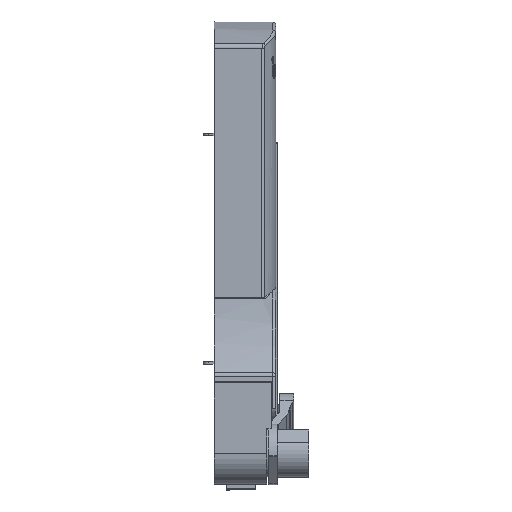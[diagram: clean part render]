
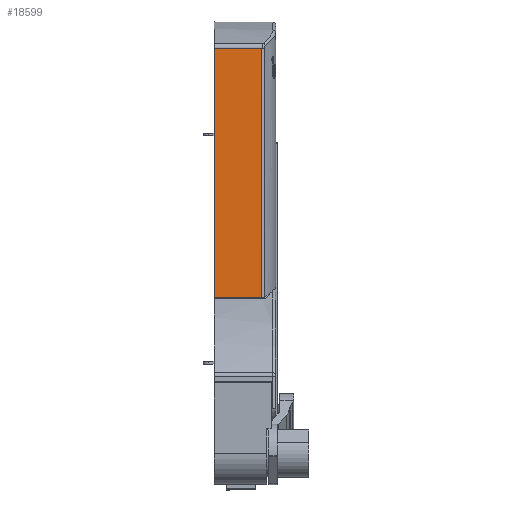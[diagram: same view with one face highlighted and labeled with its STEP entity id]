
A CAD part, top view. The second image highlights one B-rep face of the part: STEP entity #18599.
In plain terms, the highlighted planar face has unit normal (0, 0, 1).
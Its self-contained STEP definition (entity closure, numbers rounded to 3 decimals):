
#54 = ORIENTED_EDGE ( 'NONE', *, *, #18151, .T. ) ;
#55 = ORIENTED_EDGE ( 'NONE', *, *, #18553, .T. ) ;
#56 = ORIENTED_EDGE ( 'NONE', *, *, #18554, .T. ) ;
#57 = ORIENTED_EDGE ( 'NONE', *, *, #18555, .T. ) ;
#3572 = CARTESIAN_POINT ( 'NONE',  ( 26.858, 68.229, 24.257 ) ) ;
#3577 = CARTESIAN_POINT ( 'NONE',  ( 26.858, 208.25, 24.257 ) ) ;
#5466 = EDGE_LOOP ( 'NONE', ( #54, #55, #56, #57 ) ) ;
#6915 = VERTEX_POINT ( 'NONE', #3572 ) ;
#6920 = VERTEX_POINT ( 'NONE', #3577 ) ;
#10049 = LINE ( 'NONE', #10060, #10804 ) ;
#10060 = CARTESIAN_POINT ( 'NONE',  ( 0., 101.957, 24.257 ) ) ;
#10067 = DIRECTION ( 'NONE',  ( 0., -1., 0. ) ) ;
#10804 = VECTOR ( 'NONE', #10067, 1000. ) ;
#11248 = VECTOR ( 'NONE', #18849, 1000. ) ;
#11249 = VECTOR ( 'NONE', #18852, 1000. ) ;
#11250 = VECTOR ( 'NONE', #18855, 1000. ) ;
#14581 = CARTESIAN_POINT ( 'NONE',  ( 0., 208.25, 24.257 ) ) ;
#14586 = CARTESIAN_POINT ( 'NONE',  ( 0., 68.229, 24.257 ) ) ;
#16068 = VERTEX_POINT ( 'NONE', #14581 ) ;
#16073 = VERTEX_POINT ( 'NONE', #14586 ) ;
#18151 = EDGE_CURVE ( 'NONE', #16068, #16073, #10049, .T. ) ;
#18553 = EDGE_CURVE ( 'NONE', #16073, #6915, #18847, .T. ) ;
#18554 = EDGE_CURVE ( 'NONE', #6915, #6920, #18850, .T. ) ;
#18555 = EDGE_CURVE ( 'NONE', #6920, #16068, #18853, .T. ) ;
#18599 = ADVANCED_FACE ( 'NONE', ( #19110 ), #19111, .F. ) ;
#18847 = LINE ( 'NONE', #18848, #11248 ) ;
#18848 = CARTESIAN_POINT ( 'NONE',  ( 26.858, 68.229, 24.257 ) ) ;
#18849 = DIRECTION ( 'NONE',  ( 1., 0., 0. ) ) ;
#18850 = LINE ( 'NONE', #18851, #11249 ) ;
#18851 = CARTESIAN_POINT ( 'NONE',  ( 26.858, 101.957, 24.257 ) ) ;
#18852 = DIRECTION ( 'NONE',  ( 0., 1., 0. ) ) ;
#18853 = LINE ( 'NONE', #18854, #11250 ) ;
#18854 = CARTESIAN_POINT ( 'NONE',  ( 53., 208.25, 24.257 ) ) ;
#18855 = DIRECTION ( 'NONE',  ( -1., 0., 0. ) ) ;
#19103 = CARTESIAN_POINT ( 'NONE',  ( 53., 101.957, 24.257 ) ) ;
#19110 = FACE_OUTER_BOUND ( 'NONE', #5466, .T. ) ;
#19111 = PLANE ( 'NONE',  #19561 ) ;
#19114 = DIRECTION ( 'NONE',  ( 0., 0., -1. ) ) ;
#19115 = DIRECTION ( 'NONE',  ( -1., 0., 0. ) ) ;
#19561 = AXIS2_PLACEMENT_3D ( 'NONE', #19103, #19114, #19115 ) ;
